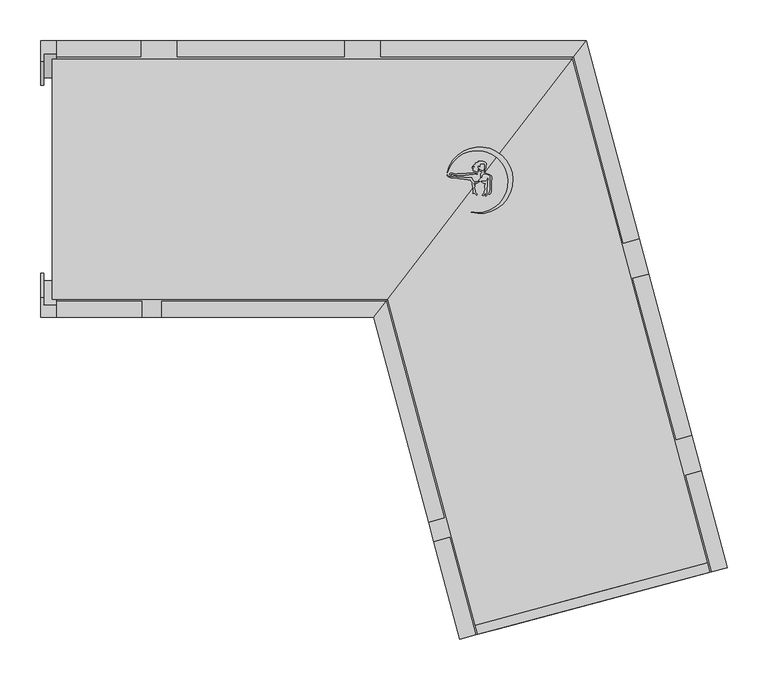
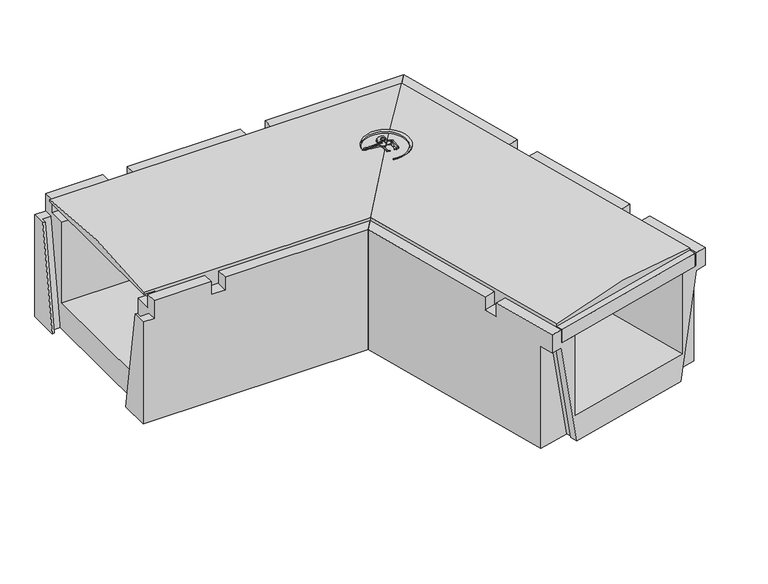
"""IFC4 building model written with IfcOpenShell, lengths in millimetres: cable carrier fitting geometry, Evotray type 2 horizontal bend : Evotray type 2 horizontal bend."""

from ifc_helpers import new_model, si_unit, point, frame, frame_2d, origin, place, context, project, spatial, polyline, circle_curve, ellipse_curve, trimmed, segment, composite_curve, outline, extrude, faceted_brep, source, transform, mapped, element, save
from ifc_brep_helpers import plane_surface, cylinder_surface, advanced_brep


def cable_carrier_fitting_d8d9572d(model_context):
    return source(origin(), model_context, "Body", "SolidModel", [
        extrude(outline(composite_curve([segment(polyline([(46.208185, 7.5339815), (47.633876, 6.7108584), (46.9249447, 6.3015567), (44.3600148, 6.3015567), (41.9005215, 3.8420634), (41.9005215, 2.2583954), (40.8430076, 1.9750354), (40.5116404, 3.2117144), (40.8338618, 4.414261), (40.8338618, 6.6410761), (42.3004025, 8.1076167), (41.9005215, 8.8002309), (40.8338618, 9.4160672), (39.9755899, 9.9115907), (38.9824664, 10.9047143), (38.9824664, 12.1547711), (39.7702606, 11.6999379), (40.8338618, 10.6363367), (41.9005215, 10.0205004), (44.2132862, 10.0205004), (44.8451849, 10.6523991), (44.8451849, 12.2608037), (45.2510419, 12.9637687), (45.4906119, 13.8578561), (45.4906119, 17.953291), (44.8451849, 18.598718), (40.8338618, 18.9496633), (40.0856977, 18.5177106), (39.6538492, 17.769727), (39.4314558, 16.9397435), (39.1587394, 15.393092), (38.6027176, 15.9491137), (38.0370618, 16.5147695), (37.0765269, 16.5147695), (36.6020875, 15.6930164), (36.6020875, 14.868111), (37.0041347, 14.1717449), (37.7318293, 13.4440503), (37.33519, 11.9637721), (36.99769, 10.7042051), (37.3004975, 8.9868987), (36.4997044, 8.8456973), (34.7692591, 9.3093687), (33.5225498, 9.8907188), (32.7692926, 10.2419684), (31.1698441, 9.9599424), (31.6374025, 10.7697774), (33.2942235, 11.3728109)]), True, "CONTINUOUS"), segment(trimmed(circle_curve(frame_2d((32.7280959, 11.1008716)), 0.6280537), [point((33.2942235, 11.3728109))], [point((32.5725137, 11.7093497))], True, "CARTESIAN"), True, "CONTINUOUS"), segment(polyline([(32.5725137, 11.7093497), (30.6254987, 11.7093497), (31.1836768, 12.2675278), (32.0344565, 12.5771863), (32.852896, 12.875074)]), True, "CONTINUOUS"), segment(trimmed(circle_curve(frame_2d((32.1145711, 12.875074)), 0.7383249), [point((32.852896, 12.875074))], [point((32.1145711, 13.6133989))], True, "CARTESIAN"), True, "CONTINUOUS"), segment(polyline([(32.1145711, 13.6133989), (30.4068235, 13.6133989), (30.0153019, 14.2915342), (31.833894, 14.612201), (33.130232, 15.0840295), (32.5094793, 15.7047821), (30.5462598, 15.7047821), (31.0988423, 16.2573646), (32.128675, 16.8519388), (32.8033993, 17.5266631), (33.5262166, 17.9439819), (34.5012286, 18.5069053)]), True, "CONTINUOUS"), segment(trimmed(circle_curve(frame_2d((34.2902432, 18.8723428)), 0.4219708), [point((34.5012286, 18.5069053))], [point((34.0792579, 19.2377802))], True, "CARTESIAN"), True, "CONTINUOUS"), segment(polyline([(34.0792579, 19.2377802), (34.6966545, 19.8551768), (35.9993245, 20.3293099), (36.9943811, 20.9038061), (38.1259177, 21.1033266), (37.7720919, 22.0754549), (42.7720919, 22.0754549), (43.7862657, 21.6025379), (44.9081207, 21.3019378), (45.9225668, 20.716247), (47.0312432, 19.6075706), (47.0312432, 17.0415553), (46.5423261, 16.1947259), (46.5423261, 13.46269), (46.0532911, 12.4139512), (45.6464893, 11.7093497), (45.6464893, 9.8605854), (44.8451849, 9.3979521), (44.0119064, 9.2510226)]), True, "CONTINUOUS"), segment(trimmed(circle_curve(frame_2d((45.0648579, 8.9688851)), 1.0900956), [point((44.0119064, 9.2510226))], [point((44.7827204, 7.9159336))], True, "CARTESIAN"), True, "CONTINUOUS"), segment(polyline([(44.7827204, 7.9159336), (46.208185, 7.5339815)]), True, "CONTINUOUS")], self_intersect=False)), frame((0.0, 0.0, 223.75), z_axis=(0.0, 0.0, 1.0), x_axis=(1.0, 0.0, 0.0)), (0.0, 0.0, 1.0), 22.5),
        extrude(outline(polyline([(50.7648942, 4.6789788), (48.8422502, 5.7890178), (50.0314903, 6.1076737), (51.4063457, 5.6072673), (53.5324949, 4.3797345), (53.9441443, 2.8434379), (53.9441443, 0.0702487), (53.5257634, -2.3025073), (53.1996263, -11.6418533), (53.1996263, -14.4967502), (52.6399783, -17.6706715), (51.4809542, -18.8296956), (50.5834656, -18.8296956), (51.2583398, -16.975494), (51.5672954, -15.2233198), (52.0817526, -12.3056877), (52.0817526, -1.066223), (52.5233873, 1.4384114), (51.9809104, 3.4629626), (50.7648942, 4.6789788)])), frame((0.0, 0.0, 223.75), z_axis=(0.0, 0.0, 1.0), x_axis=(1.0, 0.0, 0.0)), (0.0, 0.0, 1.0), 22.5),
        extrude(outline(composite_curve([segment(polyline([(43.3366453, -2.929042), (45.3188467, -2.929042), (46.787111, -2.6701473), (48.0923931, -1.3648653), (49.2725019, 1.1658863), (49.7534539, -0.1555184), (49.1307461, -1.4909195), (48.4601386, -2.929042), (48.4601386, -8.8872378), (48.0317595, -11.3166965), (48.0317595, -19.7978385), (46.5831009, -21.2464971), (46.0103636, -20.6737599), (46.6890837, -18.9313898), (46.947229, -17.4673747)]), True, "CONTINUOUS"), segment(trimmed(circle_curve(frame_2d((46.532581, -17.4673747)), 0.414648), [point((46.947229, -17.4673747))], [point((46.1179329, -17.4673747))], True, "CARTESIAN"), True, "CONTINUOUS"), segment(polyline([(46.1179329, -17.4673747), (45.3522442, -18.2330635), (44.0853977, -19.7428323), (43.4298886, -20.3983414), (42.6375674, -20.0288759), (44.8017873, -16.820288), (45.107697, -15.0853881), (45.9497549, -13.2795892), (46.2069624, -11.8208929), (45.4184536, -10.4551557), (45.4184536, -7.6886085), (46.7416021, -5.8190518)]), True, "CONTINUOUS"), segment(trimmed(circle_curve(frame_2d((46.4044971, -5.5804712)), 0.4129897), [point((46.7416021, -5.8190518))], [point((46.1659165, -5.2433662))], True, "CARTESIAN"), True, "CONTINUOUS"), segment(polyline([(46.1659165, -5.2433662), (44.1621015, -4.8900395), (42.718205, -4.2167395), (40.8982043, -3.3680593), (40.8982043, -2.499079), (43.3366453, -2.929042)]), True, "CONTINUOUS")], self_intersect=False)), frame((0.0, 0.0, 223.75), z_axis=(0.0, 0.0, 1.0), x_axis=(1.0, 0.0, 0.0)), (0.0, 0.0, 1.0), 22.5),
        extrude(outline(composite_curve([segment(polyline([(0.9250494, 3.8801527), (2.6607232, 3.0707947), (6.8471971, 3.0707947), (7.9179182, 3.3576935), (9.2444558, 3.3576935), (10.9655647, 3.0707947), (12.9718867, 2.5332023), (14.1250748, 2.2242065), (19.8169815, 2.2242065), (22.4334774, 1.7880518), (23.7610401, 1.4323324), (29.3752823, 1.4323324)]), True, "CONTINUOUS"), segment(trimmed(circle_curve(frame_2d((38.2288485, 4.337939)), 9.3181642), [point((29.3752823, 1.4323324))], [point((32.7295501, -3.184421))], True, "CARTESIAN"), True, "CONTINUOUS"), segment(polyline([(32.7295501, -3.184421), (35.7813349, -3.184421), (37.8159135, -3.0064185), (38.9549174, -2.4752922), (38.6973975, -3.4363696), (37.7533032, -3.9814427), (36.7946163, -4.3303762), (33.5599113, -4.2174178), (32.3712167, -4.6500673), (31.9622223, -5.5271586), (32.0373029, -6.3853337), (32.5161871, -7.2147854), (33.2367926, -7.9353909), (33.2367926, -9.6916034), (32.8714923, -10.6952577), (33.0157589, -12.3442325), (33.5208512, -14.2292627), (33.6689703, -15.9222719), (36.0403054, -18.6501808), (35.8316285, -19.8336466), (33.2367926, -17.2388107), (32.273961, -17.4968007), (30.8707848, -17.2493828), (31.1463452, -16.4922869), (31.1463452, -14.2182314), (31.321949, -13.2223327), (31.1463452, -11.2151718), (30.7706827, -10.1830477), (30.7706827, -8.3578648), (30.324347, -7.4006948), (30.324347, -5.0229453), (30.0759068, -4.0957537), (29.6239364, -3.3129181), (29.1752247, -2.5357266), (28.5607823, -1.9212842), (28.126931, -0.9908871), (24.5259928, -0.8651396), (22.1818408, -0.4743831), (20.1492475, 0.0702487), (16.8076279, 0.4214671), (14.7280149, 0.4214671), (13.3857803, 0.7811177), (11.8621853, 1.1893638), (10.518932, 1.8157331), (9.5245432, 1.8157331), (6.8731029, 1.8157331), (5.7608587, 1.5177082), (3.8975768, 1.713547), (2.4085019, 1.9617671), (0.7351944, 2.7420433), (-0.240732, 3.7179696), (-0.8798151, 4.3570527), (-0.8798151, 5.1439324), (0.9250494, 3.8801527)]), True, "CONTINUOUS")], self_intersect=False)), frame((0.0, 0.0, 223.75), z_axis=(0.0, 0.0, 1.0), x_axis=(1.0, 0.0, 0.0)), (0.0, 0.0, 1.0), 22.5),
        extrude(outline(composite_curve([segment(polyline([(3.427282, 5.4241248), (4.4505963, 4.833314), (2.7229359, 5.3529849), (2.3927893, 6.2705486), (3.2311138, 7.108873), (6.1039323, 7.108873), (7.0883693, 6.7111347), (8.1788581, 6.2705486), (8.9770516, 5.8097113), (10.2372818, 5.8097113), (11.0583068, 6.1051225), (11.9435591, 6.6162232), (18.357264, 6.6162232), (19.2128386, 6.2705486), (20.2832407, 6.2705486), (21.2439608, 6.6162232), (22.4231175, 6.6162232), (23.1414566, 7.0309564), (28.5541118, 7.0309564), (29.3143925, 7.3045113), (30.5565505, 7.3045113), (31.132319, 7.8802798), (33.0898825, 7.8802798), (34.3778835, 7.3598936), (35.3898, 6.7756634), (36.194241, 6.4506481)]), True, "CONTINUOUS"), segment(trimmed(circle_curve(frame_2d((35.7869087, 6.2860752)), 0.4393221), [point((36.194241, 6.4506481))], [point((35.6223357, 5.8787428))], False, "CARTESIAN"), True, "CONTINUOUS"), segment(polyline([(35.6223357, 5.8787428), (34.606607, 6.2891238), (33.2949493, 6.2891238), (32.0245193, 6.5131349), (31.2124949, 6.2209622), (30.069521, 5.8097113), (26.725323, 5.8097113), (25.9342497, 5.3529849), (22.3669294, 5.3529849), (21.484067, 4.8432641), (11.484067, 4.8432641), (8.873403, 4.6148606), (5.1848753, 6.1051225), (3.0341078, 6.1051225), (3.427282, 5.4241248)]), True, "CONTINUOUS")], self_intersect=False)), frame((0.0, 0.0, 223.75), z_axis=(0.0, 0.0, 1.0), x_axis=(1.0, 0.0, 0.0)), (0.0, 0.0, 1.0), 22.5),
        extrude(outline(composite_curve([segment(trimmed(circle_curve(frame_2d((36.007542, -3.2457098)), 38.3616107), [point((28.5997052, -40.8852785))], [point((-0.7039933, 7.8842657))], True, "CARTESIAN"), True, "CONTINUOUS"), segment(trimmed(circle_curve(frame_2d((39.1369427, -1.3653761)), 40.900563), [point((-0.7039933, 7.8842657))], [point((28.5997052, -40.8852785))], False, "CARTESIAN"), True, "CONTINUOUS")], self_intersect=False)), frame((0.0, 0.0, 223.75), z_axis=(0.0, 0.0, 1.0), x_axis=(1.0, 0.0, 0.0)), (0.0, 0.0, 1.0), 22.5),
        advanced_brep(
        [(36.7273104, -559.3453504, 205.0), (-73.6263187, -147.5, 205.0), (152.7351428, 147.5, 205.0), (321.6754291, -482.9937321, 205.0), (321.6754291, -482.9937321, 230.0), (36.7273104, -559.3453504, 230.0), (152.7351428, 147.5, 234.0), (318.5696006, -471.4026222, 234.0), (318.5696006, -471.4026222, 230.0), (-73.6263187, -147.5, 234.0), (33.6214818, -547.7542405, 230.0), (33.6214818, -547.7542405, 234.0)],
        [
            (0, 1),
            (1, 2),
            (2, 3),
            (3, 0),
            (3, 4),
            (4, 5),
            (5, 0),
            (2, 6),
            (6, 7),
            (7, 8),
            (8, 4),
            (1, 9),
            (9, 6, ellipse_curve(frame((39.554412, 0.0, -671.8362405), z_axis=(-0.793353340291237, 0.6087614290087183, 0.0), x_axis=(-0.6087614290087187, -0.7933533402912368, 0.0)), 1156.8194904, 917.7666068)),
            (5, 10),
            (10, 11),
            (11, 9),
            (8, 10),
            (7, 11, circle_curve(frame((176.0955412, -509.5784314, -671.8362405), z_axis=(0.25881904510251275, -0.9659258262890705, 0.0), x_axis=(-0.9659258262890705, -0.25881904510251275, 0.0)), 917.7666068)),
        ],
        [
            plane_surface(frame((256.4754359, -500.4640177, 205.0), z_axis=(0.0, 0.0, -1.0), x_axis=(-0.9659258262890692, -0.2588190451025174, 0.0))),
            plane_surface(frame((36.7273104, -559.3453504, 246.0), z_axis=(0.2588190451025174, -0.9659258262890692, 0.0), x_axis=(0.0, 0.0, -1.0))),
            plane_surface(frame((321.6754291, -482.9937321, 246.0), z_axis=(0.9659258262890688, 0.258819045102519, 0.0), x_axis=(0.0, 0.0, -1.0))),
            plane_surface(frame((152.7351428, 147.5, 246.0), z_axis=(-0.793353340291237, 0.6087614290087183, 0.0), x_axis=(0.0, 0.0, -1.0))),
            plane_surface(frame((-73.6263187, -147.5, 246.0), z_axis=(-0.9659258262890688, -0.2588190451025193, 0.0), x_axis=(0.0, 0.0, -1.0))),
            plane_surface(frame((101.1396971, -529.6627893, 230.0), z_axis=(0.0, 0.0, 1.0000000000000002), x_axis=(0.9659258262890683, 0.2588190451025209, 0.0))),
            plane_surface(frame((318.5696006, -471.4026222, 246.0), z_axis=(0.2588190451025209, -0.9659258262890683, 0.0), x_axis=(0.0, 0.0, -1.0))),
            cylinder_surface(frame((39.554412, 0.0, -671.8362405), z_axis=(0.25881904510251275, -0.9659258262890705, 0.0), x_axis=(-0.9659258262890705, -0.25881904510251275, 0.0)), 917.7666068),
        ],
        [
            (0, [[1, 2, 3, 4]]),
            (1, [[-4, 5, 6, 7]]),
            (2, [[-3, 8, 9, 10, 11, -5]]),
            (3, [[-2, 12, 13, -8]]),
            (4, [[-1, -7, 14, 15, 16, -12]]),
            (5, [[17, -14, -6, -11]]),
            (6, [[-17, -10, 18, -15]]),
            (7, [[-9, -13, -16, -18]]),
        ],
    ),
        advanced_brep(
        [(152.7351428, 147.5, 205.0), (-73.6263187, -147.5, 205.0), (-466.0, -147.5, 205.0), (-466.0, 147.5, 205.0), (-73.6263187, -147.5, 230.0), (-73.6263187, -147.5, 234.0), (-486.0, -147.5, 234.0), (-486.0, -147.5, 230.0), (-466.0, -147.5, 230.0), (152.7351428, 147.5, 230.0), (152.7351428, 147.5, 234.0), (-466.0, 147.5, 230.0), (-486.0, 147.5, 230.0), (-486.0, 147.5, 234.0)],
        [
            (0, 1),
            (1, 2),
            (2, 3),
            (3, 0),
            (1, 4),
            (4, 5),
            (5, 6),
            (6, 7),
            (7, 8),
            (8, 2),
            (0, 9),
            (9, 10),
            (10, 5, ellipse_curve(frame((39.554412, 0.0, -671.8362405), z_axis=(0.793353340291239, -0.6087614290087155, 0.0), x_axis=(0.6087614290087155, 0.7933533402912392, 0.0)), 1156.8194904, 917.7666068)),
            (3, 11),
            (11, 12),
            (12, 13),
            (13, 10),
            (12, 7),
            (6, 13, circle_curve(frame((-486.0, 0.0, -671.8362405), z_axis=(-1.0, 0.0, 0.0), x_axis=(0.0, -1.0, 0.0)), 917.7666068)),
            (11, 8),
        ],
        [
            plane_surface(frame((-77.5, -147.5, 205.0), z_axis=(0.0, 0.0, -1.0), x_axis=(-1.0, 0.0, 0.0))),
            plane_surface(frame((-486.0, -147.5, 246.0), z_axis=(0.0, -1.0, 0.0), x_axis=(0.0, 0.0, -1.0))),
            plane_surface(frame((-73.6263187, -147.5, 246.0), z_axis=(0.793353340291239, -0.6087614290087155, 0.0), x_axis=(0.0, 0.0, -1.0))),
            plane_surface(frame((152.7351428, 147.5, 246.0), z_axis=(0.0, 1.0, 0.0), x_axis=(0.0, 0.0, -1.0))),
            plane_surface(frame((-486.0, 147.5, 246.0), z_axis=(-1.0, 0.0, 0.0), x_axis=(0.0, 0.0, -1.0))),
            plane_surface(frame((-486.0, 147.5, 230.0), z_axis=(0.0, 0.0, -1.0), x_axis=(-1.0, 0.0, 0.0))),
            plane_surface(frame((-466.0, -147.5, 230.0), z_axis=(-1.0, 0.0, 0.0), x_axis=(0.0, 0.0, -1.0))),
            cylinder_surface(frame((-486.0, 0.0, -671.8362405), z_axis=(1.0, 0.0, 0.0), x_axis=(0.0, -1.0, 0.0)), 917.7666068),
        ],
        [
            (0, [[1, 2, 3, 4]]),
            (1, [[5, 6, 7, 8, 9, 10, -2]]),
            (2, [[-1, 11, 12, 13, -6, -5]]),
            (3, [[-11, -4, 14, 15, 16, 17, -12]]),
            (4, [[18, -8, 19, -16]]),
            (5, [[20, -9, -18, -15]]),
            (6, [[-20, -14, -3, -10]]),
            (7, [[-7, -13, -17, -19]]),
        ],
    ),
        faceted_brep([(-75.5446362, -150.0, 230.0), (-90.8911759, -170.0, 230.0), (-23.5700584, -421.2458308, 230.0), (-4.2515419, -416.0694499, 230.0), (170.0, 170.0, 230.0), (154.6534602, 150.0, 230.0), (215.9038828, -78.5896891, 230.0), (235.2223994, -73.4133082, 230.0), (324.0902437, -482.3466845, 230.0), (343.4087602, -477.1703036, 230.0), (311.5740177, -358.361427, 230.0), (292.2555011, -363.5378079, 230.0), (14.9939793, -565.1687789, 230.0), (34.3124958, -559.992398, 230.0), (2.2189342, -440.2175956, 230.0), (-17.0995823, -445.3939765, 230.0), (299.9271606, -314.8947648, 230.0), (246.8692564, -116.8799704, 230.0), (227.5507399, -122.0563513, 230.0), (280.6086441, -320.0711457, 230.0), (-90.8911759, -170.0, 0.0), (170.0, 170.0, 0.0), (336.9382841, -453.022158, 0.0), (281.880512, -467.7748435, 0.0), (284.9863405, -479.3659534, 0.0), (287.3045625, -478.7447877, 0.0), (290.6692101, -491.3018235, 0.0), (67.7335294, -551.0372591, 0.0), (64.3688818, -538.4802233, 0.0), (66.6871038, -537.8590576, 0.0), (63.5812753, -526.2679477, 0.0), (8.5235032, -541.0206333, 0.0), (235.2223994, -73.4133082, 205.0), (246.8692564, -116.8799704, 205.0), (299.9271606, -314.8947648, 205.0), (311.5740177, -358.361427, 205.0), (343.4087602, -477.1703036, 196.0), (336.9382841, -453.022158, 196.0), (-75.5446362, -150.0, 205.0), (-52.5248265, -120.0, 205.0), (-52.5248265, -120.0, 50.0), (131.6336506, 120.0, 50.0), (131.6336506, 120.0, 205.0), (154.6534602, 150.0, 205.0), (8.5235032, -541.0206333, 196.0), (14.9939793, -565.1687789, 196.0), (-17.0995823, -445.3939765, 205.0), (-23.5700584, -421.2458308, 205.0), (34.3124958, -559.992398, 196.0), (324.0902437, -482.3466845, 196.0), (324.0902437, -482.3466845, 205.0), (295.1124689, -490.1112559, 205.0), (295.1124689, -490.1112559, 50.0), (63.2902706, -552.2278267, 50.0), (63.2902706, -552.2278267, 205.0), (34.3124958, -559.992398, 205.0), (30.9478482, -547.4353623, 196.0), (30.1602417, -535.2230867, 196.0), (33.2660702, -546.8141966, 196.0), (320.7255961, -469.7896488, 196.0), (318.4073741, -470.4108145, 196.0), (315.3015456, -458.8197046, 196.0), (-4.2515419, -416.0694499, 205.0), (2.2189342, -440.2175956, 205.0), (292.2555011, -363.5378079, 205.0), (280.6086441, -320.0711457, 205.0), (227.5507399, -122.0563513, 205.0), (215.9038828, -78.5896891, 205.0)], [[[0, 1, 2, 3]], [[4, 5, 6, 7]], [[8, 9, 10, 11]], [[12, 13, 14, 15]], [[16, 17, 18, 19]], [[20, 21, 22, 23, 24, 25, 26, 27, 28, 29, 30, 31]], [[21, 4, 7, 32, 33, 17, 16, 34, 35, 10, 9, 36, 37, 22]], [[21, 20, 1, 0, 38, 39, 40, 41, 42, 43, 5, 4]], [[1, 20, 31, 44, 45, 12, 15, 46, 47, 2]], [[12, 45, 48, 27, 26, 49, 36, 9, 8, 50, 51, 52, 53, 54, 55, 13]], [[56, 48, 45, 44, 57, 58]], [[48, 56, 28, 27]], [[49, 59, 60, 61, 37, 36]], [[59, 49, 26, 25]], [[58, 29, 28, 56]], [[58, 57, 30, 29]], [[57, 44, 31, 30]], [[24, 60, 59, 25]], [[61, 60, 24, 23]], [[37, 61, 23, 22]], [[39, 38, 62, 47, 46, 63, 55, 54]], [[43, 42, 51, 50, 64, 35, 34, 65, 66, 33, 32, 67]], [[19, 18, 66, 65]], [[5, 43, 67, 6]], [[50, 8, 11, 64]], [[38, 0, 3, 62]], [[13, 55, 63, 14]], [[52, 41, 40, 53]], [[41, 52, 51, 42]], [[53, 40, 39, 54]], [[47, 62, 3, 2]], [[63, 46, 15, 14]], [[67, 32, 7, 6]], [[33, 66, 18, 17]], [[65, 34, 16, 19]], [[35, 64, 11, 10]]]),
        faceted_brep([(-90.8911759, -170.0, 230.0), (-75.5446362, -150.0, 230.0), (-351.0, -150.0, 230.0), (-351.0, -170.0, 230.0), (154.6534602, 150.0, 230.0), (170.0, 170.0, 230.0), (-82.0, 170.0, 230.0), (-82.0, 150.0, 230.0), (-127.0, 170.0, 230.0), (-332.0, 170.0, 230.0), (-332.0, 150.0, 230.0), (-127.0, 150.0, 230.0), (-376.0, -170.0, 230.0), (-376.0, -150.0, 230.0), (-480.0, -150.0, 230.0), (-480.0, -170.0, 230.0), (-377.0, 150.0, 230.0), (-377.0, 170.0, 230.0), (-480.0, 170.0, 230.0), (-480.0, 150.0, 230.0), (-500.0, 170.0, 0.0), (170.0, 170.0, 0.0), (-90.8911759, -170.0, 0.0), (-500.0, -170.0, 0.0), (-500.0, -115.5, 0.0), (-496.0, -115.5, 0.0), (-496.0, -124.6, 0.0), (-480.0, -124.6, 0.0), (-480.0, 124.6, 0.0), (-496.0, 124.6, 0.0), (-496.0, 115.4, 0.0), (-500.0, 115.4, 0.0), (-500.0, 170.0, 196.0), (-500.0, 144.8852174, 196.0), (-500.0, -170.0, 196.0), (-500.0, -144.9, 196.0), (-351.0, -170.0, 205.0), (-376.0, -170.0, 205.0), (-480.0, -170.0, 196.0), (154.6534602, 150.0, 205.0), (131.6336506, 120.0, 205.0), (131.6336506, 120.0, 50.0), (-52.5248265, -120.0, 50.0), (-52.5248265, -120.0, 205.0), (-75.5446362, -150.0, 205.0), (-480.0, 170.0, 196.0), (-377.0, 170.0, 205.0), (-332.0, 170.0, 205.0), (-127.0, 170.0, 205.0), (-82.0, 170.0, 205.0), (-82.0, 150.0, 205.0), (-127.0, 150.0, 205.0), (-332.0, 150.0, 205.0), (-377.0, 150.0, 205.0), (-480.0, 150.0, 205.0), (-480.0, 147.5, 205.0), (-480.0, 120.0, 205.0), (-466.0, 120.0, 205.0), (-466.0, -120.0, 205.0), (-480.0, -120.0, 205.0), (-480.0, -147.5, 205.0), (-480.0, -150.0, 205.0), (-376.0, -150.0, 205.0), (-351.0, -150.0, 205.0), (-480.0, 120.0, 50.0), (-480.0, -120.0, 50.0), (-480.0, -154.0852174, 196.0), (-496.0, -154.0852174, 196.0), (-496.0, -144.9, 196.0), (-496.0, 144.8852174, 196.0), (-496.0, 154.0, 196.0), (-480.0, 154.0, 196.0)], [[[0, 1, 2, 3]], [[4, 5, 6, 7]], [[8, 9, 10, 11]], [[12, 13, 14, 15]], [[16, 17, 18, 19]], [[20, 21, 22, 23, 24, 25, 26, 27, 28, 29, 30, 31]], [[32, 20, 31, 33]], [[23, 34, 35, 24]], [[23, 22, 0, 3, 36, 37, 12, 15, 38, 34]], [[22, 21, 5, 4, 39, 40, 41, 42, 43, 44, 1, 0]], [[21, 20, 32, 45, 18, 17, 46, 47, 9, 8, 48, 49, 6, 5]], [[40, 39, 50, 49, 48, 51, 52, 47, 46, 53, 54, 55, 56, 57]], [[44, 43, 58, 59, 60, 61, 62, 37, 36, 63]], [[1, 44, 63, 2]], [[13, 62, 61, 14]], [[11, 10, 52, 51]], [[39, 4, 7, 50]], [[53, 16, 19, 54]], [[42, 41, 64, 65]], [[41, 40, 57, 56, 64]], [[43, 42, 65, 59, 58]], [[37, 62, 13, 12]], [[63, 36, 3, 2]], [[53, 46, 17, 16]], [[47, 52, 10, 9]], [[51, 48, 8, 11]], [[49, 50, 7, 6]], [[34, 38, 66, 67, 68, 35]], [[45, 32, 33, 69, 70, 71]], [[38, 15, 14, 61, 60, 59, 65, 64, 56, 55, 54, 19, 18, 45, 71, 28, 27, 66]], [[31, 30, 69, 33]], [[25, 24, 35, 68]], [[28, 71, 70, 29]], [[29, 70, 69, 30]], [[67, 26, 25, 68]], [[66, 27, 26, 67]]]),
    ])


if __name__ == "__main__":
    model = new_model("IFC4")
    model_context = context("Model", 3, world=origin())
    ifc_project = project(units=[si_unit("LENGTHUNIT", "METRE", prefix="MILLI")], contexts=[model_context])
    site = spatial("IfcSite", under=ifc_project)
    building = spatial("IfcBuilding", under=site)
    placement = place(None, origin())
    cable_carrier_fitting_shape = cable_carrier_fitting_d8d9572d(model_context)
    element("IfcCableCarrierFitting", 1, ObjectType="Evotray type 2 horizontal bend : Evotray type 2 horizontal bend", at=placement, inside=building, context=model_context, shape_type="MappedRepresentation", body=[
        mapped(cable_carrier_fitting_shape, transform((0.0, 0.0, 0.0), x_axis=(1.0, 0.0, 0.0), y_axis=(0.0, 1.0, 0.0), z_axis=(0.0, 0.0, 1.0))),
    ])
    save(model, "model.ifc")
